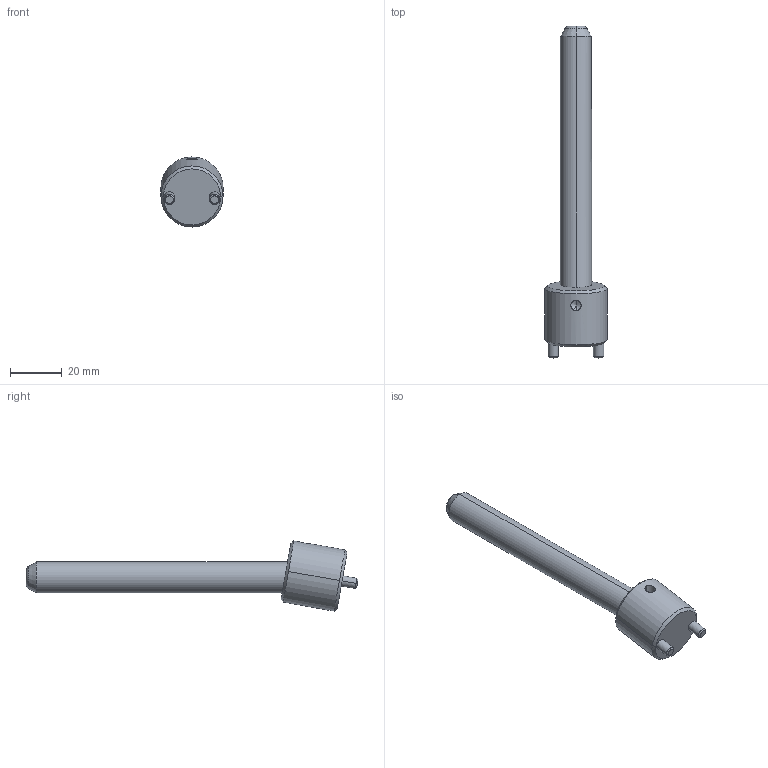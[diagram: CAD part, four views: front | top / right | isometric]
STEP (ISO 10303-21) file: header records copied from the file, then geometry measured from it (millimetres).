
FILE_DESCRIPTION(('CATIA V5 STEP Exchange'),'2;1');
FILE_NAME('C:\Users\Raffaele\Desktop\3D BOLEX\3D FILES CF BOLEX\19-INCLINED ASSEMBLY REF_CI\CI1012100.stp','2019-06-20T14:09:19+00:00',('none'),('none'),'CATIA Version 5 Release 20 GA (IN-10)','CATIA V5 STEP AP203','none');
FILE_SCHEMA(('CONFIG_CONTROL_DESIGN'));
Length unit declared in the file: millimetre
Products named in the file (1): CI1012100
Assembly tree (2 placements, depth 2):
  CI1012100
    #58
    #578
Bounding box: 24 x 128.27 x 27.11 mm (x, y, z)
Volume: 21018.1 mm3; surface area: 7972.9 mm2
Topology: 2 solids, 2 shells, 39 faces, 82 edges, 47 vertices
Faces by surface type: cone 14, cylinder 14, plane 7, torus 4
Entity records: 1467 total; most frequent: CARTESIAN_POINT 608, ORIENTED_EDGE 160, DIRECTION 145, EDGE_CURVE 80, AXIS2_PLACEMENT_3D 72, VERTEX_POINT 47, EDGE_LOOP 43, ADVANCED_FACE 39
